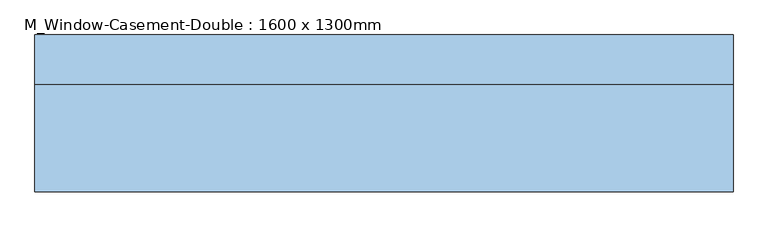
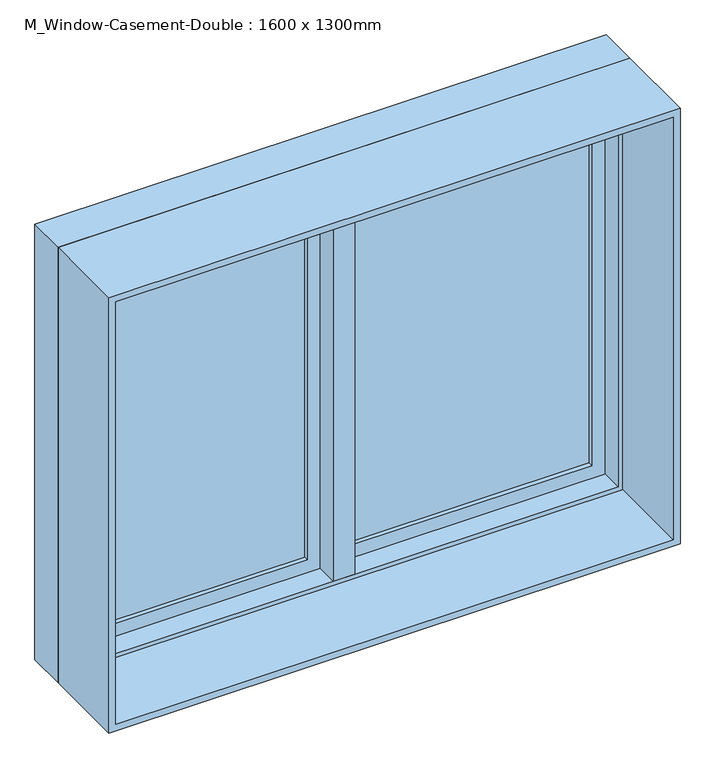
"""IFC4 building model written with IfcOpenShell, lengths in millimetres: window geometry, M_Window-Casement-Double : 1600 x 1300mm."""

from ifc_helpers import new_model, si_unit, frame, origin, place, context, project, spatial, polyline, outline, extrude, faceted_brep, source, transform, mapped, element, save


def m_window_casement_double_1600_x_1300mm_8a1cf402(model_context):
    return source(origin(), model_context, "Body", "SolidModel", [
        faceted_brep([(9.525, 189.05, 2177.3), (-9.525, 189.05, 2177.3), (-9.525, 138.25, 2177.3), (9.525, 138.25, 2177.3), (9.525, 189.05, 912.7), (9.525, 138.25, 912.7), (-9.525, 138.25, 912.7), (-9.525, 189.05, 912.7), (-9.525, 138.25, 931.75), (-9.525, 138.25, 2158.25), (-30.1625, 138.25, 931.75), (-30.1625, 138.25, 2158.25), (-30.1625, 74.75, 931.75), (-30.1625, 74.75, 2158.25), (30.1625, 74.75, 931.75), (30.1625, 74.75, 2158.25), (30.1625, 138.25, 931.75), (30.1625, 138.25, 2158.25), (9.525, 138.25, 931.75), (9.525, 138.25, 2158.25)], [[[0, 1, 2, 3]], [[4, 5, 6, 7]], [[1, 0, 4, 7]], [[2, 1, 7, 6, 8, 9]], [[9, 8, 10, 11]], [[11, 10, 12, 13]], [[13, 12, 14, 15]], [[15, 14, 16, 17]], [[17, 16, 18, 19]], [[0, 3, 19, 18, 5, 4]], [[18, 8, 6, 5]], [[9, 19, 3, 2]], [[8, 18, 16, 14, 12, 10]], [[19, 9, 11, 13, 15, 17]]]),
        extrude(outline(polyline([(-66.675, 170.0), (-66.675, 163.65), (-730.15, 163.65), (-730.15, 170.0), (-66.675, 170.0)])), frame((0.0, 0.0, 969.85), z_axis=(0.0, 0.0, 1.0), x_axis=(1.0, 0.0, 0.0)), (0.0, 0.0, 1.0), 1150.3),
        extrude(outline(polyline([(-730.15, 150.95), (-730.15, 157.3), (-66.675, 157.3), (-66.675, 150.95), (-730.15, 150.95)])), frame((0.0, 0.0, 969.85), z_axis=(0.0, 0.0, 1.0), x_axis=(1.0, 0.0, 0.0)), (0.0, 0.0, 1.0), 1150.3),
        extrude(outline(polyline([(730.15, 170.0), (730.15, 163.65), (66.675, 163.65), (66.675, 170.0), (730.15, 170.0)])), frame((0.0, 0.0, 969.85), z_axis=(0.0, 0.0, 1.0), x_axis=(1.0, 0.0, 0.0)), (0.0, 0.0, 1.0), 1150.3),
        extrude(outline(polyline([(66.675, 150.95), (66.675, 157.3), (730.15, 157.3), (730.15, 150.95), (66.675, 150.95)])), frame((0.0, 0.0, 969.85), z_axis=(0.0, 0.0, 1.0), x_axis=(1.0, 0.0, 0.0)), (0.0, 0.0, 1.0), 1150.3),
        extrude(outline(polyline([(2177.3, -787.3), (912.7, -787.3), (912.7, -9.525), (2177.3, -9.525), (2177.3, -787.3)]), holes=[polyline([(2120.15, -66.675), (969.85, -66.675), (969.85, -730.15), (2120.15, -730.15), (2120.15, -66.675)])]), frame((0.0, 138.25, 0.0), z_axis=(0.0, 1.0, 0.0), x_axis=(0.0, 0.0, 1.0)), (0.0, 0.0, 1.0), 44.45),
        extrude(outline(polyline([(912.7, 787.3), (2177.3, 787.3), (2177.3, 9.525), (912.7, 9.525), (912.7, 787.3)]), holes=[polyline([(969.85, 66.675), (2120.15, 66.675), (2120.15, 730.15), (969.85, 730.15), (969.85, 66.675)])]), frame((0.0, 138.25, 0.0), z_axis=(0.0, 1.0, 0.0), x_axis=(0.0, 0.0, 1.0)), (0.0, 0.0, 1.0), 44.45),
        extrude(outline(polyline([(2190.0, -800.0), (900.0, -800.0), (900.0, 800.0), (2190.0, 800.0), (2190.0, -800.0)]), holes=[polyline([(2170.95, 780.95), (919.05, 780.95), (919.05, -780.95), (2170.95, -780.95), (2170.95, 780.95)])]), frame((0.0, -170.0, 0.0), z_axis=(0.0, 1.0, 0.0), x_axis=(0.0, 0.0, 1.0)), (0.0, 0.0, 1.0), 244.75),
        faceted_brep([(768.25, 138.25, 2158.25), (768.25, 74.75, 2158.25), (-768.25, 74.75, 2158.25), (-768.25, 138.25, 2158.25), (787.3, 189.05, 2177.3), (787.3, 138.25, 2177.3), (-787.3, 138.25, 2177.3), (-787.3, 189.05, 2177.3), (800.0, 74.75, 2190.0), (800.0, 189.05, 2190.0), (-800.0, 189.05, 2190.0), (-800.0, 74.75, 2190.0), (-768.25, 74.75, 931.75), (-768.25, 138.25, 931.75), (-787.3, 138.25, 912.7), (-787.3, 189.05, 912.7), (-800.0, 189.05, 900.0), (-800.0, 74.75, 900.0), (768.25, 74.75, 931.75), (768.25, 138.25, 931.75), (787.3, 138.25, 912.7), (787.3, 189.05, 912.7), (800.0, 189.05, 900.0), (800.0, 74.75, 900.0)], [[[0, 1, 2, 3]], [[4, 5, 6, 7]], [[8, 9, 10, 11]], [[3, 2, 12, 13]], [[7, 6, 14, 15]], [[11, 10, 16, 17]], [[13, 12, 18, 19]], [[15, 14, 20, 21]], [[17, 16, 22, 23]], [[11, 17, 23, 8], [1, 18, 12, 2]], [[19, 18, 1, 0]], [[5, 20, 14, 6], [3, 13, 19, 0]], [[21, 20, 5, 4]], [[23, 22, 9, 8]], [[9, 22, 16, 10], [7, 15, 21, 4]]]),
    ])


if __name__ == "__main__":
    model = new_model("IFC4")
    model_context = context("Model", 3, world=origin())
    ifc_project = project(units=[si_unit("LENGTHUNIT", "METRE", prefix="MILLI")], contexts=[model_context])
    site = spatial("IfcSite", under=ifc_project)
    building = spatial("IfcBuilding", under=site)
    placement = place(None, origin())
    m_window_casement_double_1600_x_1300mm_shape = m_window_casement_double_1600_x_1300mm_8a1cf402(model_context)
    element("IfcWindow", 1, ObjectType="M_Window-Casement-Double : 1600 x 1300mm", at=placement, inside=building, context=model_context, shape_type="MappedRepresentation", body=[
        mapped(m_window_casement_double_1600_x_1300mm_shape, transform((0.0, 0.0, 0.0), x_axis=(1.0, 0.0, 0.0), y_axis=(0.0, 1.0, 0.0), z_axis=(0.0, 0.0, 1.0))),
    ])
    save(model, "model.ifc")
